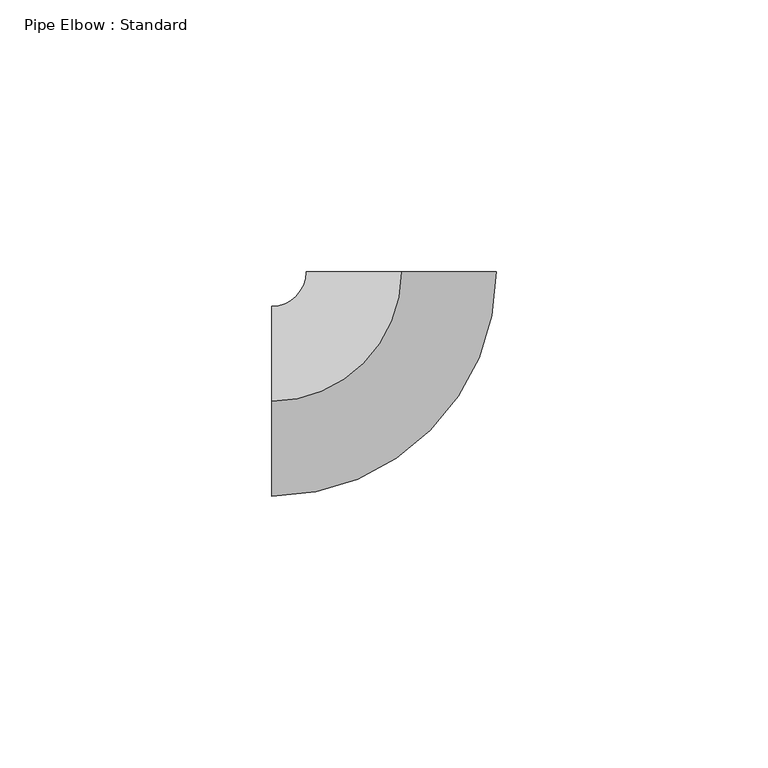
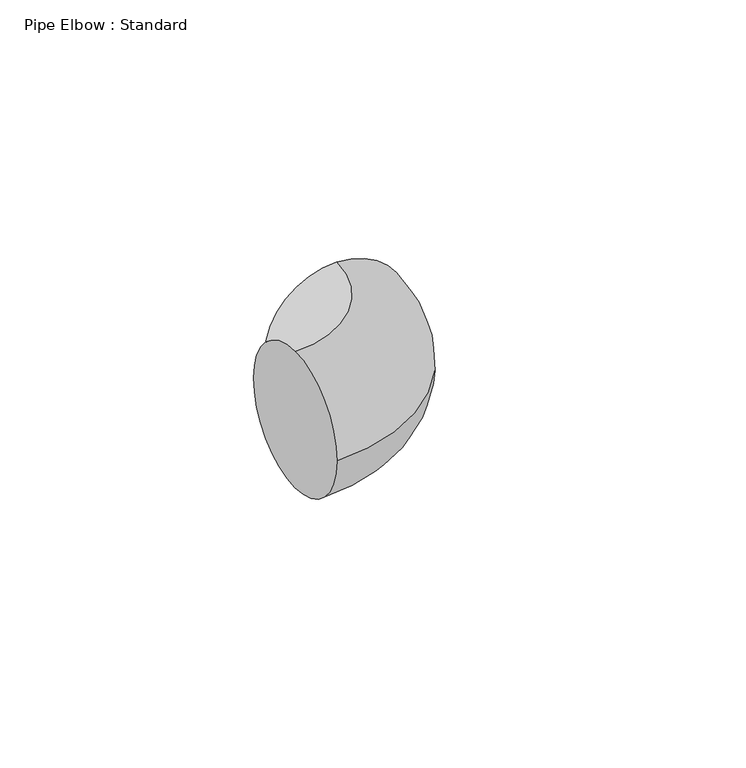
"""IFC4 building model written with IfcOpenShell, lengths in millimetres: pipe fitting geometry, Pipe Elbow : Standard."""

from ifc_helpers import new_model, si_unit, point, frame, origin, place, context, project, spatial, circle_curve, ellipse_curve, trimmed, source, transform, mapped, element, save
from ifc_brep_helpers import plane_surface, revolved_surface, advanced_brep


def pipe_elbow_standard_a25a5501(model_context):
    return source(origin(), model_context, "Body", "AdvancedBrep", [
        advanced_brep(
        [(-23.8125, 0.0, 17.4625), (-23.8125, 17.4625, 0.0), (-23.8125, 0.0, -17.4625), (-23.8125, -17.4625, 0.0), (0.0, 23.8125, 17.4625), (17.4625, 23.8125, 0.0), (0.0, 23.8125, -17.4625), (-17.4625, 23.8125, 0.0)],
        [
            (0, 1, circle_curve(frame((-23.8125, 0.0, 0.0), z_axis=(-1.0, 0.0, 0.0), x_axis=(0.0, 1.0, 0.0)), 17.4625)),
            (1, 2, circle_curve(frame((-23.8125, 0.0, 0.0), z_axis=(-1.0, 0.0, 0.0), x_axis=(0.0, 1.0, 0.0)), 17.4625)),
            (2, 3, circle_curve(frame((-23.8125, 0.0, 0.0), z_axis=(-1.0, 0.0, 0.0), x_axis=(0.0, 1.0, 0.0)), 17.4625)),
            (3, 0, circle_curve(frame((-23.8125, 0.0, 0.0), z_axis=(-1.0, 0.0, 0.0), x_axis=(0.0, 1.0, 0.0)), 17.4625)),
            (4, 5, circle_curve(frame((0.0, 23.8125, 0.0), z_axis=(0.0, 1.0, 0.0), x_axis=(-1.0, 0.0, 0.0)), 17.4625)),
            (5, 6, circle_curve(frame((0.0, 23.8125, 0.0), z_axis=(0.0, 1.0, 0.0), x_axis=(-1.0, 0.0, 0.0)), 17.4625)),
            (6, 7, circle_curve(frame((0.0, 23.8125, 0.0), z_axis=(0.0, 1.0, 0.0), x_axis=(-1.0, 0.0, 0.0)), 17.4625)),
            (7, 4, circle_curve(frame((0.0, 23.8125, 0.0), z_axis=(0.0, 1.0, 0.0), x_axis=(-1.0, 0.0, 0.0)), 17.4625)),
            (7, 1, circle_curve(frame((-23.8125, 23.8125, 0.0), z_axis=(0.0, 0.0, -1.0), x_axis=(0.0, -1.0, 0.0)), 6.35)),
            (0, 4, circle_curve(frame((-23.8125, 23.8125, 17.4625), z_axis=(0.0, 0.0, 1.0), x_axis=(0.0, -1.0, 0.0)), 23.8125)),
            (6, 2, circle_curve(frame((-23.8125, 23.8125, -17.4625), z_axis=(0.0, 0.0, -1.0), x_axis=(0.0, -1.0, 0.0)), 23.8125)),
            (5, 3, circle_curve(frame((-23.8125, 23.8125, 0.0), z_axis=(0.0, 0.0, -1.0), x_axis=(0.0, -1.0, 0.0)), 41.275)),
        ],
        [
            plane_surface(frame((-23.8125, 0.0, 0.0), z_axis=(-1.0, 0.0, 0.0), x_axis=(0.0, 0.0, 1.0))),
            plane_surface(frame((0.0, 23.8125, 0.0), z_axis=(0.0, 1.0, 0.0), x_axis=(0.0, 0.0, 1.0))),
            revolved_surface(trimmed(ellipse_curve(frame((-23.8125, 0.0, 0.0), z_axis=(-1.0, 0.0, 0.0), x_axis=(0.0, 1.0, 0.0)), 17.4625, 17.4625), [point((-23.8125, 0.0, 17.4625))], [point((-23.8125, 17.4625, 0.0))], True, "CARTESIAN"), (-23.8125, 23.8125, 0.0), (0.0, 0.0, 1.0)),
            revolved_surface(trimmed(ellipse_curve(frame((-23.8125, 0.0, 0.0), z_axis=(-1.0, 0.0, 0.0), x_axis=(0.0, 1.0, 0.0)), 17.4625, 17.4625), [point((-23.8125, 17.4625, 0.0))], [point((-23.8125, 0.0, -17.4625))], True, "CARTESIAN"), (-23.8125, 23.8125, 0.0), (0.0, 0.0, 1.0)),
            revolved_surface(trimmed(ellipse_curve(frame((-23.8125, 0.0, 0.0), z_axis=(-1.0, 0.0, 0.0), x_axis=(0.0, 1.0, 0.0)), 17.4625, 17.4625), [point((-23.8125, 0.0, -17.4625))], [point((-23.8125, -17.4625, 0.0))], True, "CARTESIAN"), (-23.8125, 23.8125, 0.0), (0.0, 0.0, 1.0)),
            revolved_surface(trimmed(ellipse_curve(frame((-23.8125, 0.0, 0.0), z_axis=(-1.0, 0.0, 0.0), x_axis=(0.0, 1.0, 0.0)), 17.4625, 17.4625), [point((-23.8125, -17.4625, 0.0))], [point((-23.8125, 0.0, 17.4625))], True, "CARTESIAN"), (-23.8125, 23.8125, 0.0), (0.0, 0.0, 1.0)),
        ],
        [
            (0, [[1, 2, 3, 4]]),
            (1, [[5, 6, 7, 8]]),
            (2, [[9, -1, 10, -8]]),
            (3, [[11, -2, -9, -7]]),
            (4, [[12, -3, -11, -6]]),
            (5, [[-10, -4, -12, -5]]),
        ],
    ),
        advanced_brep(
        [(-23.8125, 0.0, 17.4625), (-23.8125, 17.4625, 0.0), (-23.8125, 0.0, -17.4625), (-23.8125, -17.4625, 0.0), (0.0, 23.8125, 17.4625), (17.4625, 23.8125, 0.0), (0.0, 23.8125, -17.4625), (-17.4625, 23.8125, 0.0)],
        [
            (0, 1, circle_curve(frame((-23.8125, 0.0, 0.0), z_axis=(-1.0, 0.0, 0.0), x_axis=(0.0, 1.0, 0.0)), 17.4625)),
            (1, 2, circle_curve(frame((-23.8125, 0.0, 0.0), z_axis=(-1.0, 0.0, 0.0), x_axis=(0.0, 1.0, 0.0)), 17.4625)),
            (2, 3, circle_curve(frame((-23.8125, 0.0, 0.0), z_axis=(-1.0, 0.0, 0.0), x_axis=(0.0, 1.0, 0.0)), 17.4625)),
            (3, 0, circle_curve(frame((-23.8125, 0.0, 0.0), z_axis=(-1.0, 0.0, 0.0), x_axis=(0.0, 1.0, 0.0)), 17.4625)),
            (4, 5, circle_curve(frame((0.0, 23.8125, 0.0), z_axis=(0.0, 1.0, 0.0), x_axis=(-1.0, 0.0, 0.0)), 17.4625)),
            (5, 6, circle_curve(frame((0.0, 23.8125, 0.0), z_axis=(0.0, 1.0, 0.0), x_axis=(-1.0, 0.0, 0.0)), 17.4625)),
            (6, 7, circle_curve(frame((0.0, 23.8125, 0.0), z_axis=(0.0, 1.0, 0.0), x_axis=(-1.0, 0.0, 0.0)), 17.4625)),
            (7, 4, circle_curve(frame((0.0, 23.8125, 0.0), z_axis=(0.0, 1.0, 0.0), x_axis=(-1.0, 0.0, 0.0)), 17.4625)),
            (7, 1, circle_curve(frame((-23.8125, 23.8125, 0.0), z_axis=(0.0, 0.0, -1.0), x_axis=(0.0, -1.0, 0.0)), 6.35)),
            (0, 4, circle_curve(frame((-23.8125, 23.8125, 17.4625), z_axis=(0.0, 0.0, 1.0), x_axis=(0.0, -1.0, 0.0)), 23.8125)),
            (6, 2, circle_curve(frame((-23.8125, 23.8125, -17.4625), z_axis=(0.0, 0.0, -1.0), x_axis=(0.0, -1.0, 0.0)), 23.8125)),
            (5, 3, circle_curve(frame((-23.8125, 23.8125, 0.0), z_axis=(0.0, 0.0, -1.0), x_axis=(0.0, -1.0, 0.0)), 41.275)),
        ],
        [
            plane_surface(frame((-23.8125, 0.0, 0.0), z_axis=(-1.0, 0.0, 0.0), x_axis=(0.0, 0.0, 1.0))),
            plane_surface(frame((0.0, 23.8125, 0.0), z_axis=(0.0, 1.0, 0.0), x_axis=(0.0, 0.0, 1.0))),
            revolved_surface(trimmed(ellipse_curve(frame((-23.8125, 0.0, 0.0), z_axis=(-1.0, 0.0, 0.0), x_axis=(0.0, 1.0, 0.0)), 17.4625, 17.4625), [point((-23.8125, 0.0, 17.4625))], [point((-23.8125, 17.4625, 0.0))], True, "CARTESIAN"), (-23.8125, 23.8125, 0.0), (0.0, 0.0, 1.0)),
            revolved_surface(trimmed(ellipse_curve(frame((-23.8125, 0.0, 0.0), z_axis=(-1.0, 0.0, 0.0), x_axis=(0.0, 1.0, 0.0)), 17.4625, 17.4625), [point((-23.8125, 17.4625, 0.0))], [point((-23.8125, 0.0, -17.4625))], True, "CARTESIAN"), (-23.8125, 23.8125, 0.0), (0.0, 0.0, 1.0)),
            revolved_surface(trimmed(ellipse_curve(frame((-23.8125, 0.0, 0.0), z_axis=(-1.0, 0.0, 0.0), x_axis=(0.0, 1.0, 0.0)), 17.4625, 17.4625), [point((-23.8125, 0.0, -17.4625))], [point((-23.8125, -17.4625, 0.0))], True, "CARTESIAN"), (-23.8125, 23.8125, 0.0), (0.0, 0.0, 1.0)),
            revolved_surface(trimmed(ellipse_curve(frame((-23.8125, 0.0, 0.0), z_axis=(-1.0, 0.0, 0.0), x_axis=(0.0, 1.0, 0.0)), 17.4625, 17.4625), [point((-23.8125, -17.4625, 0.0))], [point((-23.8125, 0.0, 17.4625))], True, "CARTESIAN"), (-23.8125, 23.8125, 0.0), (0.0, 0.0, 1.0)),
        ],
        [
            (0, [[1, 2, 3, 4]]),
            (1, [[5, 6, 7, 8]]),
            (2, [[9, -1, 10, -8]]),
            (3, [[11, -2, -9, -7]]),
            (4, [[12, -3, -11, -6]]),
            (5, [[-10, -4, -12, -5]]),
        ],
    ),
    ])


if __name__ == "__main__":
    model = new_model("IFC4")
    model_context = context("Model", 3, world=origin())
    ifc_project = project(units=[si_unit("LENGTHUNIT", "METRE", prefix="MILLI")], contexts=[model_context])
    site = spatial("IfcSite", under=ifc_project)
    building = spatial("IfcBuilding", under=site)
    placement = place(None, origin())
    pipe_elbow_standard_shape = pipe_elbow_standard_a25a5501(model_context)
    element("IfcPipeFitting", 1, ObjectType="Pipe Elbow : Standard", at=placement, inside=building, context=model_context, shape_type="MappedRepresentation", body=[
        mapped(pipe_elbow_standard_shape, transform((0.0, 0.0, 0.0), x_axis=(1.0, 0.0, 0.0), y_axis=(0.0, 1.0, 0.0), z_axis=(0.0, 0.0, 1.0))),
    ])
    save(model, "model.ifc")
